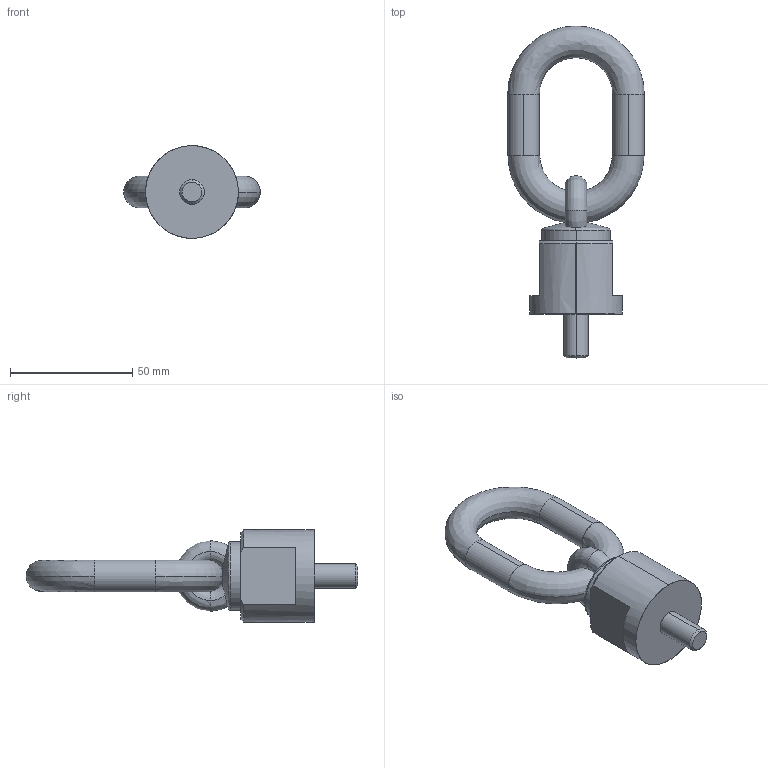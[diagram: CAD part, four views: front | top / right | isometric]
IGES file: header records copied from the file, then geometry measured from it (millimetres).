
Start section: START RECORD GO HERE.
Global section: file name: C8000031018.igs; native system: DASSAULT SYSTEMES CATIA V5 R20 - www.3ds.com; preprocessor: CATIA Version 5 Release 20 ; author: Utente; organization: NB04-ASUS; date: 20200412.162343; units: millimetre
Bounding box: 56 x 136 x 38 mm (x, y, z)
Surface area: 14900.4 mm2 (no closed solid volume)
Topology: 0 solids, 0 shells, 45 faces, 242 edges, 242 vertices
Faces by surface type: revolution 33, extrusion 12
